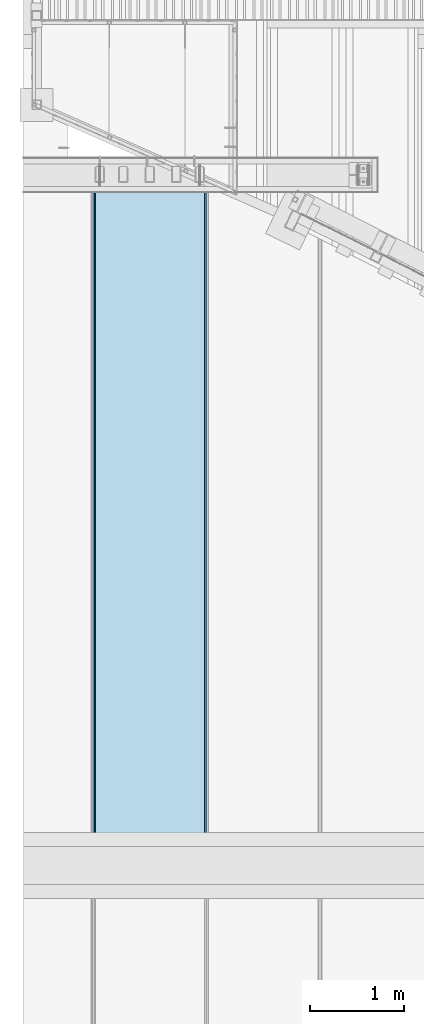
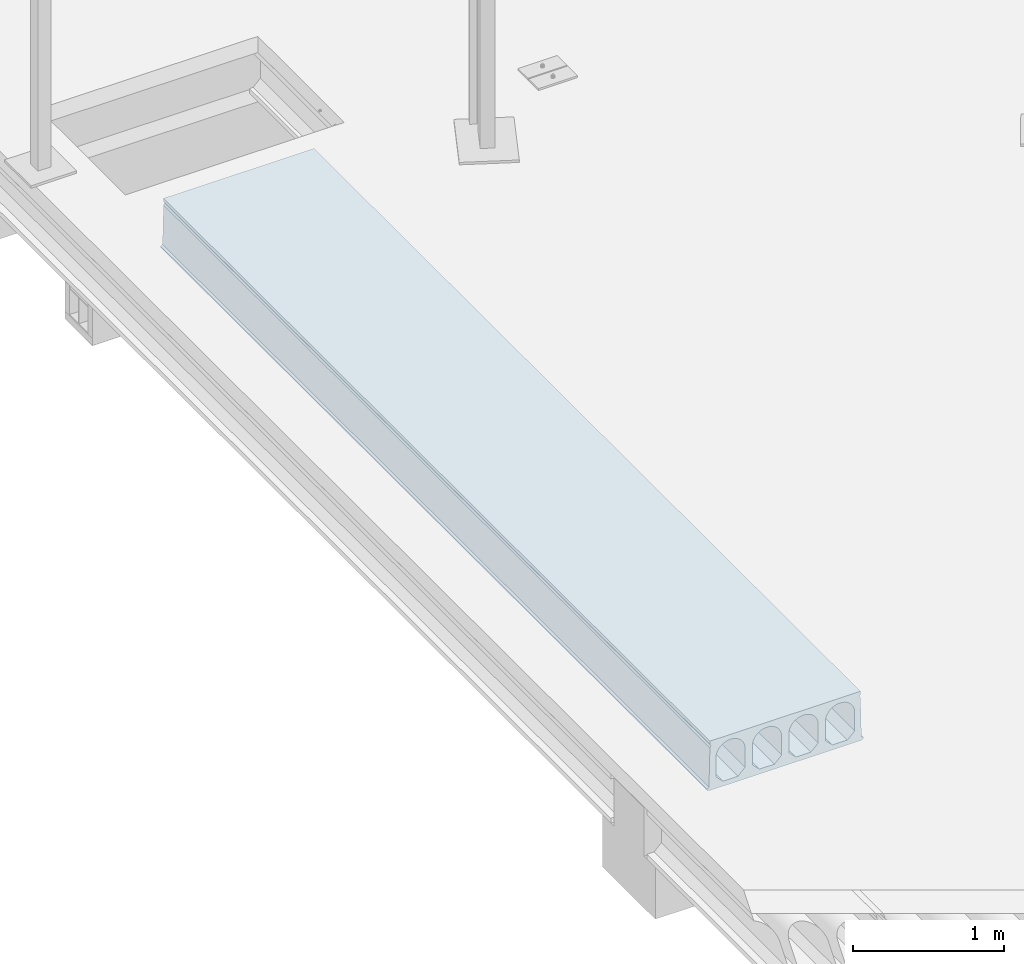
# One storey, part 53 of 98: 1 slab.
"""IFC2X3 building model written with IfcOpenShell, lengths in millimetres."""

from ifc_helpers import new_model, entity, si_unit, converted_unit, derived_unit, direction, frame, origin_with_axes, place, context, subcontext, project, spatial, faceted_brep, material, type_object, element, save


model = new_model("IFC2X3")

# Units and contexts
model_context = context("Model", 3, precision=0.01, world=frame((0.0, 4.29681676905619e-09, 0.0)), true_north=direction((4.01073788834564e-13, 1.0)))
plan_context = context("Plan", 3, precision=0.01, world=frame((0.0, 4.29681676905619e-09, 0.0)), true_north=direction((4.01073788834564e-13, 1.0)))
body_context = subcontext(model_context, "Body", "Model", "MODEL_VIEW")
ifc_project = project(units=[converted_unit("PLANEANGLEUNIT", "DEGREE", entity("IfcPositiveLengthMeasure", 0.0174532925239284), si_unit("PLANEANGLEUNIT", "RADIAN"), dimensions=[0, 0, 0, 0, 0, 0, 0]), si_unit("AREAUNIT", "SQUARE_METRE"), si_unit("LENGTHUNIT", "METRE", prefix="MILLI"), si_unit("MASSUNIT", "GRAM", prefix="KILO"), si_unit("POWERUNIT", "WATT"), si_unit("PRESSUREUNIT", "PASCAL"), si_unit("FORCEUNIT", "NEWTON", prefix="KILO"), si_unit("ELECTRICCURRENTUNIT", "AMPERE"), si_unit("THERMODYNAMICTEMPERATUREUNIT", "DEGREE_CELSIUS"), si_unit("TIMEUNIT", "SECOND"), si_unit("VOLUMEUNIT", "CUBIC_METRE"), derived_unit("LINEARVELOCITYUNIT", [(si_unit("LENGTHUNIT", "METRE"), 1), (si_unit("TIMEUNIT", "SECOND"), -1)]), derived_unit("VOLUMETRICFLOWRATEUNIT", [(si_unit("VOLUMEUNIT", "CUBIC_METRE"), 1), (si_unit("TIMEUNIT", "SECOND"), -1)]), derived_unit("THERMALTRANSMITTANCEUNIT", [(si_unit("POWERUNIT", "WATT"), 1), (si_unit("THERMODYNAMICTEMPERATUREUNIT", "KELVIN"), -1), (si_unit("AREAUNIT", "SQUARE_METRE"), -1)])], contexts=[model_context, plan_context])

# Site, building, storey
site_placement = place(None, frame((0.0, -4.29681676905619e-09, 0.0), z_axis=(0.0, 0.0, 1.0), x_axis=(1.0, 0.0, 0.0)))
site = spatial("IfcSite", under=ifc_project, at=site_placement, Name="Gardermoen", CompositionType="ELEMENT")
building_placement = place(site_placement, frame((0.0, 4.29681676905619e-09, 0.0), z_axis=(0.0, 0.0, 1.0), x_axis=(1.0, 0.0, 0.0)))
building = spatial("IfcBuilding", under=site, at=building_placement, Name="TS", CompositionType="ELEMENT")
storey_placement = place(building_placement, origin_with_axes())
storey = spatial("IfcBuildingStorey", under=building, at=storey_placement, Name="D", CompositionType="ELEMENT", Elevation=0.0)

# Slab
ifc_material = material(Name="CONCRETE/C45/55")
slab_type = type_object("IfcSlabType", Name="HD400", PredefinedType="NOTDEFINED")
slab_placement = place(storey_placement, frame((515199.999766, 405739.995625, 203600.0), z_axis=(0.0, 0.0, 1.0), x_axis=(0.0, 1.0, 0.0)))
element("IfcSlab", 1, at=slab_placement, inside=storey, type_object=slab_type, material=ifc_material, Name="HULLDEKKE", ObjectType="HD400", PredefinedType="FLOOR", context=body_context, shape_type="Brep", body=[
    faceted_brep([(0.0, 583.380004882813, -200.0), (0.0, 600.0, -190.0), (7259.97870812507, 600.0, -190.0), (7259.97905369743, 583.380004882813, -200.0), (0.0, -583.380004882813, -200.0), (7260.00331363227, -583.380004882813, -200.0), (0.0, -600.0, -190.0), (7260.00365920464, -600.0, -190.0), (0.0, -600.0, -180.0), (7260.00365920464, -600.0, -180.0), (0.0, -585.0, -170.0), (7260.00334731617, -585.0, -170.0), (0.0, -577.5, 145.0), (7260.00319137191, -577.5, 145.0), (0.0, -570.0, 160.0), (7260.00303542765, -570.0, 160.0), (0.0, -577.5, 175.0), (7260.00319137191, -577.5, 175.0), (0.0, -577.5, 200.0), (7260.00319137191, -577.5, 200.0), (0.0, 577.5, 200.0), (7259.97917595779, 577.5, 200.0), (0.0, 577.5, 175.0), (7259.97917595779, 577.5, 175.0), (0.0, 570.0, 160.0), (7259.97933190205, 570.0, 160.0), (0.0, 577.5, 145.0), (7259.97917595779, 577.5, 145.0), (0.0, 585.0, -170.0), (7259.97902001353, 585.0, -170.0), (0.0, 600.0, -180.0), (7259.97870812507, 600.0, -180.0), (0.0, -307.5, -105.0), (0.0, -362.5, -160.0), (7259.99872097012, -362.5, -160.0), (7259.99757737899, -307.5, -105.0), (0.0, -307.5, 47.5), (7259.99757737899, -307.5, 47.5), (0.0, -307.884244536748, 56.7901763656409), (7259.9975853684, -307.884244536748, 56.7901763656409), (0.0, -309.034353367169, 66.0168914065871), (7259.99760928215, -309.034353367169, 66.0168914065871), (0.0, -310.942470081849, 75.1171173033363), (7259.99764895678, -310.942470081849, 75.1171173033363), (0.0, -313.595560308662, 84.028690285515), (7259.99770412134, -313.595560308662, 84.028690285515), (0.0, -316.975500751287, 92.6907352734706), (7259.997774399, -316.975500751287, 92.6907352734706), (0.0, -321.059202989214, 101.044081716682), (7259.9978593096, -321.059202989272, 101.044081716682), (0.0, -325.818771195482, 109.031667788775), (7259.99795827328, -325.818771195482, 109.031667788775), (0.0, -331.221692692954, 116.598930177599), (7259.99807061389, -331.221692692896, 116.598930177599), (0.0, -337.231060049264, 123.694176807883), (7259.99819556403, -337.231060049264, 123.694176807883), (0.0, -343.805823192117, 130.268939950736), (7259.99833227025, -343.805823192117, 130.268939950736), (0.0, -350.901069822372, 136.278307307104), (7259.99847979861, -350.90106982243, 136.278307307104), (0.0, -358.468332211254, 141.681228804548), (7259.99863714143, -358.468332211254, 141.681228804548), (0.0, -366.455918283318, 146.440797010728), (7259.99880322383, -366.455918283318, 146.440797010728), (0.0, -374.809264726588, 150.524499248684), (7259.99897691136, -374.809264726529, 150.524499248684), (0.0, -383.471309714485, 153.904439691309), (7259.9991570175, -383.471309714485, 153.904439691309), (0.0, -392.382882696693, 156.55752991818), (7259.99934231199, -392.382882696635, 156.55752991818), (0.0, -401.483108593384, 158.465646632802), (7259.99953152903, -401.483108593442, 158.465646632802), (0.0, -410.709823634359, 159.615755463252), (7259.99972337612, -410.709823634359, 159.615755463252), (0.0, -420.0, 160.0), (7259.99991654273, -420.0, 160.0), (0.0, -429.290176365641, 159.615755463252), (7260.00010970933, -429.290176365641, 159.615755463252), (0.0, -438.516891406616, 158.465646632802), (7260.00030155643, -438.516891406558, 158.465646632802), (0.0, -447.617117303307, 156.55752991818), (7260.00049077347, -447.617117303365, 156.55752991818), (0.0, -456.528690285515, 153.904439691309), (7260.0006760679, -456.528690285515, 153.904439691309), (0.0, -465.190735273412, 150.524499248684), (7260.00085617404, -465.190735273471, 150.524499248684), (0.0, -473.544081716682, 146.440797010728), (7260.00102986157, -473.544081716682, 146.440797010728), (0.0, -481.531667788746, 141.681228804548), (7260.00119594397, -481.531667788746, 141.681228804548), (0.0, -489.098930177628, 136.278307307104), (7260.00135328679, -489.09893017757, 136.278307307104), (0.0, -496.194176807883, 130.268939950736), (7260.00150081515, -496.194176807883, 130.268939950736), (0.0, -502.768939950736, 123.694176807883), (7260.00163752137, -502.768939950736, 123.694176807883), (0.0, -508.778307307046, 116.598930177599), (7260.00176247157, -508.778307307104, 116.598930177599), (0.0, -514.181228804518, 109.031667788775), (7260.00187481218, -514.181228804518, 109.031667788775), (0.0, -518.940797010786, 101.044081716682), (7260.0019737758, -518.940797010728, 101.044081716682), (0.0, -523.024499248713, 92.6907352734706), (7260.00205868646, -523.024499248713, 92.6907352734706), (0.0, -526.404439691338, 84.028690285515), (7260.00212896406, -526.404439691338, 84.028690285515), (0.0, -529.057529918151, 75.1171173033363), (7260.00218412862, -529.057529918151, 75.1171173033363), (0.0, -530.965646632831, 66.0168914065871), (7260.00222380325, -530.965646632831, 66.0168914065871), (0.0, -532.115755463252, 56.7901763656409), (7260.002247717, -532.115755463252, 56.7901763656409), (0.0, -532.5, 47.5), (7260.00225570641, -532.5, 47.5), (0.0, -532.5, -105.0), (7260.00225570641, -532.5, -105.0), (0.0, -477.5, -160.0), (7260.00111211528, -477.5, -160.0), (0.0, 252.5, -105.0), (0.0, 197.5, -160.0), (7259.98707713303, 197.5, -160.0), (7259.98593354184, 252.5, -105.0), (0.0, 252.5, 47.5), (7259.98593354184, 252.5, 47.5), (0.0, 252.115755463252, 56.7901763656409), (7259.98594153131, 252.115755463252, 56.7901763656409), (0.0, 250.965646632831, 66.0168914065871), (7259.985965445, 250.965646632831, 66.0168914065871), (0.0, 249.057529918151, 75.1171173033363), (7259.98600511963, 249.057529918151, 75.1171173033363), (0.0, 246.404439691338, 84.028690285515), (7259.98606028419, 246.404439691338, 84.028690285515), (0.0, 243.024499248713, 92.6907352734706), (7259.98613056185, 243.024499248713, 92.6907352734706), (0.0, 238.940797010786, 101.044081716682), (7259.98621547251, 238.940797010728, 101.044081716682), (0.0, 234.181228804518, 109.031667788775), (7259.98631443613, 234.181228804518, 109.031667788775), (0.0, 228.778307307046, 116.598930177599), (7259.98642677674, 228.778307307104, 116.598930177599), (0.0, 222.768939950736, 123.694176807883), (7259.98655172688, 222.768939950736, 123.694176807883), (0.0, 216.194176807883, 130.268939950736), (7259.9866884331, 216.194176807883, 130.268939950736), (0.0, 209.098930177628, 136.278307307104), (7259.98683596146, 209.09893017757, 136.278307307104), (0.0, 201.531667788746, 141.681228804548), (7259.98699330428, 201.531667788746, 141.681228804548), (0.0, 193.544081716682, 146.440797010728), (7259.98715938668, 193.544081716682, 146.440797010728), (0.0, 185.190735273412, 150.524499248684), (7259.98733307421, 185.190735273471, 150.524499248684), (0.0, 176.528690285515, 153.904439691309), (7259.98751318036, 176.528690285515, 153.904439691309), (0.0, 167.617117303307, 156.55752991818), (7259.98769847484, 167.617117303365, 156.55752991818), (0.0, 158.516891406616, 158.465646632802), (7259.98788769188, 158.516891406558, 158.465646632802), (0.0, 149.290176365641, 159.615755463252), (7259.98807953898, 149.290176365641, 159.615755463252), (0.0, 140.0, 160.0), (7259.98827270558, 140.0, 160.0), (0.0, 130.709823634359, 159.615755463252), (7259.98846587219, 130.709823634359, 159.615755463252), (0.0, 121.483108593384, 158.465646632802), (7259.98865771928, 121.483108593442, 158.465646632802), (0.0, 112.382882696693, 156.55752991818), (7259.98884693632, 112.382882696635, 156.55752991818), (0.0, 103.471309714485, 153.904439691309), (7259.98903223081, 103.471309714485, 153.904439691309), (0.0, 94.8092647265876, 150.524499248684), (7259.98921233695, 94.8092647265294, 150.524499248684), (0.0, 86.4559182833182, 146.440797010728), (7259.98938602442, 86.4559182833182, 146.440797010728), (0.0, 78.4683322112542, 141.681228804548), (7259.98955210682, 78.4683322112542, 141.681228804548), (0.0, 70.9010698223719, 136.278307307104), (7259.98970944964, 70.9010698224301, 136.278307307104), (0.0, 63.8058231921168, 130.268939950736), (7259.98985697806, 63.8058231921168, 130.268939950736), (0.0, 57.2310600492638, 123.694176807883), (7259.98999368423, 57.2310600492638, 123.694176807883), (0.0, 51.2216926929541, 116.598930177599), (7259.99011863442, 51.2216926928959, 116.598930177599), (0.0, 45.8187711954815, 109.031667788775), (7259.99023097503, 45.8187711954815, 109.031667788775), (0.0, 41.0592029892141, 101.044081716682), (7259.99032993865, 41.0592029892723, 101.044081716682), (0.0, 36.9755007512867, 92.6907352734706), (7259.99041484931, 36.9755007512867, 92.6907352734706), (0.0, 33.5955603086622, 84.028690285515), (7259.99048512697, 33.5955603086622, 84.028690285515), (0.0, 30.942470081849, 75.1171173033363), (7259.99054029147, 30.942470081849, 75.1171173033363), (0.0, 29.0343533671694, 66.0168914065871), (7259.99057996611, 29.0343533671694, 66.0168914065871), (0.0, 27.8842445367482, 56.7901763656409), (7259.99060387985, 27.8842445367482, 56.7901763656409), (0.0, 27.5, 47.5), (7259.99061186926, 27.5, 47.5), (0.0, 27.5, -105.0), (7259.99061186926, 27.5, -105.0), (0.0, 82.5, -160.0), (7259.98946827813, 82.5, -160.0), (0.0, 532.5, -105.0), (0.0, 477.5, -160.0), (7259.98125521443, 477.5, -160.0), (7259.9801116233, 532.5, -105.0), (0.0, 532.5, 47.5), (7259.9801116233, 532.5, 47.5), (0.0, 532.115755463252, 56.7901763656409), (7259.98011961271, 532.115755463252, 56.7901763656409), (0.0, 530.965646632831, 66.0168914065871), (7259.98014352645, 530.965646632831, 66.0168914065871), (0.0, 529.057529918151, 75.1171173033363), (7259.98018320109, 529.057529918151, 75.1171173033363), (0.0, 526.404439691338, 84.028690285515), (7259.98023836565, 526.404439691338, 84.028690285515), (0.0, 523.024499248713, 92.6907352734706), (7259.98030864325, 523.024499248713, 92.6907352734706), (0.0, 518.940797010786, 101.044081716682), (7259.98039355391, 518.940797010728, 101.044081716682), (0.0, 514.181228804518, 109.031667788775), (7259.98049251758, 514.181228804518, 109.031667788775), (0.0, 508.778307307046, 116.598930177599), (7259.98060485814, 508.778307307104, 116.598930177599), (0.0, 502.768939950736, 123.694176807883), (7259.98072980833, 502.768939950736, 123.694176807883), (0.0, 496.194176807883, 130.268939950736), (7259.98086651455, 496.194176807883, 130.268939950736), (0.0, 489.098930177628, 136.278307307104), (7259.98101404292, 489.09893017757, 136.278307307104), (0.0, 481.531667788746, 141.681228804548), (7259.98117138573, 481.531667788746, 141.681228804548), (0.0, 473.544081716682, 146.440797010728), (7259.98133746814, 473.544081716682, 146.440797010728), (0.0, 465.190735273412, 150.524499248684), (7259.98151115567, 465.190735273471, 150.524499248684), (0.0, 456.528690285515, 153.904439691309), (7259.98169126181, 456.528690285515, 153.904439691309), (0.0, 447.617117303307, 156.55752991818), (7259.98187655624, 447.617117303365, 156.55752991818), (0.0, 438.516891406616, 158.465646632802), (7259.98206577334, 438.516891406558, 158.465646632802), (0.0, 429.290176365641, 159.615755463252), (7259.98225762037, 429.290176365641, 159.615755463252), (0.0, 420.0, 160.0), (7259.98245078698, 420.0, 160.0), (0.0, 410.709823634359, 159.615755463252), (7259.98264395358, 410.709823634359, 159.615755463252), (0.0, 401.483108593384, 158.465646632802), (7259.98283580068, 401.483108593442, 158.465646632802), (0.0, 392.382882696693, 156.55752991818), (7259.98302501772, 392.382882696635, 156.55752991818), (0.0, 383.471309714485, 153.904439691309), (7259.9832103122, 383.471309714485, 153.904439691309), (0.0, 374.809264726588, 150.524499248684), (7259.98339041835, 374.809264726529, 150.524499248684), (0.0, 366.455918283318, 146.440797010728), (7259.98356410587, 366.455918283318, 146.440797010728), (0.0, 358.468332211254, 141.681228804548), (7259.98373018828, 358.468332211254, 141.681228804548), (0.0, 350.901069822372, 136.278307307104), (7259.9838875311, 350.90106982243, 136.278307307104), (0.0, 343.805823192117, 130.268939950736), (7259.98403505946, 343.805823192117, 130.268939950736), (0.0, 337.231060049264, 123.694176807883), (7259.98417176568, 337.231060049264, 123.694176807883), (0.0, 331.221692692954, 116.598930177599), (7259.98429671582, 331.221692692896, 116.598930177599), (0.0, 325.818771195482, 109.031667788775), (7259.98440905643, 325.818771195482, 109.031667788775), (0.0, 321.059202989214, 101.044081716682), (7259.9845080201, 321.059202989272, 101.044081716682), (0.0, 316.975500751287, 92.6907352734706), (7259.9845929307, 316.975500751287, 92.6907352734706), (0.0, 313.595560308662, 84.028690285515), (7259.98466320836, 313.595560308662, 84.028690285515), (0.0, 310.942470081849, 75.1171173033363), (7259.98471837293, 310.942470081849, 75.1171173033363), (0.0, 309.034353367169, 66.0168914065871), (7259.98475804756, 309.034353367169, 66.0168914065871), (0.0, 307.884244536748, 56.7901763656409), (7259.98478196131, 307.884244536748, 56.7901763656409), (0.0, 307.5, 47.5), (7259.98478995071, 307.5, 47.5), (0.0, 307.5, -105.0), (7259.98478995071, 307.5, -105.0), (0.0, 362.5, -160.0), (7259.98364635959, 362.5, -160.0), (0.0, -27.5, -105.0), (0.0, -27.5, 47.5), (0.0, -27.8842445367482, 56.7901763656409), (0.0, -29.0343533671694, 66.0168914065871), (0.0, -30.942470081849, 75.1171173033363), (0.0, -33.5955603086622, 84.028690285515), (0.0, -36.9755007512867, 92.6907352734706), (0.0, -41.0592029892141, 101.044081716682), (0.0, -45.8187711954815, 109.031667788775), (0.0, -51.2216926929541, 116.598930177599), (0.0, -57.2310600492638, 123.694176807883), (0.0, -63.8058231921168, 130.268939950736), (0.0, -70.9010698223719, 136.278307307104), (0.0, -78.4683322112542, 141.681228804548), (0.0, -86.4559182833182, 146.440797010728), (0.0, -94.8092647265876, 150.524499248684), (0.0, -103.471309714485, 153.904439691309), (0.0, -112.382882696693, 156.55752991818), (0.0, -121.483108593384, 158.465646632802), (0.0, -130.709823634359, 159.615755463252), (0.0, -140.0, 160.0), (0.0, -149.290176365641, 159.615755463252), (0.0, -158.516891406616, 158.465646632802), (0.0, -167.617117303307, 156.55752991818), (0.0, -176.528690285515, 153.904439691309), (0.0, -185.190735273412, 150.524499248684), (0.0, -193.544081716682, 146.440797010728), (0.0, -201.531667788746, 141.681228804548), (0.0, -209.098930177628, 136.278307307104), (0.0, -216.194176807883, 130.268939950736), (0.0, -222.768939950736, 123.694176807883), (0.0, -228.778307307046, 116.598930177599), (0.0, -234.181228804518, 109.031667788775), (0.0, -238.940797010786, 101.044081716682), (0.0, -243.024499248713, 92.6907352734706), (0.0, -246.404439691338, 84.028690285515), (0.0, -249.057529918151, 75.1171173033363), (0.0, -250.965646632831, 66.0168914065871), (0.0, -252.115755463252, 56.7901763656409), (0.0, -252.5, 47.5), (0.0, -252.5, -105.0), (0.0, -197.5, -160.0), (0.0, -82.5, -160.0), (7259.99447963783, -158.516891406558, 158.465646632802), (7259.99466885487, -167.617117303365, 156.55752991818), (7259.99485414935, -176.528690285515, 153.904439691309), (7259.99503425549, -185.190735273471, 150.524499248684), (7259.99520794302, -193.544081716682, 146.440797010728), (7259.99537402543, -201.531667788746, 141.681228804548), (7259.99553136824, -209.09893017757, 136.278307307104), (7259.99567889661, -216.194176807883, 130.268939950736), (7259.99581560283, -222.768939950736, 123.694176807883), (7259.99594055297, -228.778307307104, 116.598930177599), (7259.99605289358, -234.181228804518, 109.031667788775), (7259.99615185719, -238.940797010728, 101.044081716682), (7259.99623676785, -243.024499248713, 92.6907352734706), (7259.99630704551, -246.404439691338, 84.028690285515), (7259.99636221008, -249.057529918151, 75.1171173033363), (7259.99640188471, -250.965646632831, 66.0168914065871), (7259.9964257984, -252.115755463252, 56.7901763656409), (7259.99643378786, -252.5, 47.5), (7259.99643378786, -252.5, -105.0), (7259.99529019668, -197.5, -160.0), (7259.99289905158, -82.5, -160.0), (7259.99175546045, -27.5, -105.0), (7259.99175546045, -27.5, 47.5), (7259.99176344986, -27.8842445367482, 56.7901763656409), (7259.99178736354, -29.0343533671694, 66.0168914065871), (7259.99182703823, -30.942470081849, 75.1171173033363), (7259.9918822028, -33.5955603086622, 84.028690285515), (7259.9919524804, -36.9755007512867, 92.6907352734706), (7259.99203739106, -41.0592029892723, 101.044081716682), (7259.99213635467, -45.8187711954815, 109.031667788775), (7259.99224869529, -51.2216926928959, 116.598930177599), (7259.99237364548, -57.2310600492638, 123.694176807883), (7259.99251035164, -63.8058231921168, 130.268939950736), (7259.99265788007, -70.9010698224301, 136.278307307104), (7259.99281522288, -78.4683322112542, 141.681228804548), (7259.99298130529, -86.4559182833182, 146.440797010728), (7259.99315499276, -94.8092647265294, 150.524499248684), (7259.9933350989, -103.471309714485, 153.904439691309), (7259.99352039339, -112.382882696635, 156.55752991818), (7259.99370961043, -121.483108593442, 158.465646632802), (7259.99390145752, -130.709823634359, 159.615755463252), (7259.99409462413, -140.0, 160.0), (7259.99428779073, -149.290176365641, 159.615755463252)], [[[0, 1, 2, 3]], [[4, 0, 3, 5]], [[6, 4, 5, 7]], [[8, 6, 7, 9]], [[10, 8, 9, 11]], [[12, 10, 11, 13]], [[14, 12, 13, 15]], [[16, 14, 15, 17]], [[18, 16, 17, 19]], [[20, 18, 19, 21]], [[22, 20, 21, 23]], [[24, 22, 23, 25]], [[26, 24, 25, 27]], [[28, 26, 27, 29]], [[30, 28, 29, 31]], [[1, 30, 31, 2]], [[32, 33, 34, 35]], [[36, 32, 35, 37]], [[38, 36, 37, 39]], [[40, 38, 39, 41]], [[42, 40, 41, 43]], [[44, 42, 43, 45]], [[46, 44, 45, 47]], [[48, 46, 47, 49]], [[50, 48, 49, 51]], [[52, 50, 51, 53]], [[54, 52, 53, 55]], [[56, 54, 55, 57]], [[58, 56, 57, 59]], [[60, 58, 59, 61]], [[62, 60, 61, 63]], [[64, 62, 63, 65]], [[66, 64, 65, 67]], [[68, 66, 67, 69]], [[70, 68, 69, 71]], [[72, 70, 71, 73]], [[74, 72, 73, 75]], [[76, 74, 75, 77]], [[78, 76, 77, 79]], [[80, 78, 79, 81]], [[82, 80, 81, 83]], [[84, 82, 83, 85]], [[86, 84, 85, 87]], [[88, 86, 87, 89]], [[90, 88, 89, 91]], [[92, 90, 91, 93]], [[94, 92, 93, 95]], [[96, 94, 95, 97]], [[98, 96, 97, 99]], [[100, 98, 99, 101]], [[102, 100, 101, 103]], [[104, 102, 103, 105]], [[106, 104, 105, 107]], [[108, 106, 107, 109]], [[110, 108, 109, 111]], [[112, 110, 111, 113]], [[114, 112, 113, 115]], [[116, 114, 115, 117]], [[33, 116, 117, 34]], [[118, 119, 120, 121]], [[122, 118, 121, 123]], [[124, 122, 123, 125]], [[126, 124, 125, 127]], [[128, 126, 127, 129]], [[130, 128, 129, 131]], [[132, 130, 131, 133]], [[134, 132, 133, 135]], [[136, 134, 135, 137]], [[138, 136, 137, 139]], [[140, 138, 139, 141]], [[142, 140, 141, 143]], [[144, 142, 143, 145]], [[146, 144, 145, 147]], [[148, 146, 147, 149]], [[150, 148, 149, 151]], [[152, 150, 151, 153]], [[154, 152, 153, 155]], [[156, 154, 155, 157]], [[158, 156, 157, 159]], [[160, 158, 159, 161]], [[162, 160, 161, 163]], [[164, 162, 163, 165]], [[166, 164, 165, 167]], [[168, 166, 167, 169]], [[170, 168, 169, 171]], [[172, 170, 171, 173]], [[174, 172, 173, 175]], [[176, 174, 175, 177]], [[178, 176, 177, 179]], [[180, 178, 179, 181]], [[182, 180, 181, 183]], [[184, 182, 183, 185]], [[186, 184, 185, 187]], [[188, 186, 187, 189]], [[190, 188, 189, 191]], [[192, 190, 191, 193]], [[194, 192, 193, 195]], [[196, 194, 195, 197]], [[198, 196, 197, 199]], [[200, 198, 199, 201]], [[202, 200, 201, 203]], [[119, 202, 203, 120]], [[204, 205, 206, 207]], [[208, 204, 207, 209]], [[210, 208, 209, 211]], [[212, 210, 211, 213]], [[214, 212, 213, 215]], [[216, 214, 215, 217]], [[218, 216, 217, 219]], [[220, 218, 219, 221]], [[222, 220, 221, 223]], [[224, 222, 223, 225]], [[226, 224, 225, 227]], [[228, 226, 227, 229]], [[230, 228, 229, 231]], [[232, 230, 231, 233]], [[234, 232, 233, 235]], [[236, 234, 235, 237]], [[238, 236, 237, 239]], [[240, 238, 239, 241]], [[242, 240, 241, 243]], [[244, 242, 243, 245]], [[246, 244, 245, 247]], [[248, 246, 247, 249]], [[250, 248, 249, 251]], [[252, 250, 251, 253]], [[254, 252, 253, 255]], [[256, 254, 255, 257]], [[258, 256, 257, 259]], [[260, 258, 259, 261]], [[262, 260, 261, 263]], [[264, 262, 263, 265]], [[266, 264, 265, 267]], [[268, 266, 267, 269]], [[270, 268, 269, 271]], [[272, 270, 271, 273]], [[274, 272, 273, 275]], [[276, 274, 275, 277]], [[278, 276, 277, 279]], [[280, 278, 279, 281]], [[282, 280, 281, 283]], [[284, 282, 283, 285]], [[286, 284, 285, 287]], [[288, 286, 287, 289]], [[205, 288, 289, 206]], [[0, 4, 6, 8, 10, 12, 14, 16, 18, 20, 22, 24, 26, 28, 30, 1], [204, 208, 210, 212, 214, 216, 218, 220, 222, 224, 226, 228, 230, 232, 234, 236, 238, 240, 242, 244, 246, 248, 250, 252, 254, 256, 258, 260, 262, 264, 266, 268, 270, 272, 274, 276, 278, 280, 282, 284, 286, 288, 205], [118, 122, 124, 126, 128, 130, 132, 134, 136, 138, 140, 142, 144, 146, 148, 150, 152, 154, 156, 158, 160, 162, 164, 166, 168, 170, 172, 174, 176, 178, 180, 182, 184, 186, 188, 190, 192, 194, 196, 198, 200, 202, 119], [290, 291, 292, 293, 294, 295, 296, 297, 298, 299, 300, 301, 302, 303, 304, 305, 306, 307, 308, 309, 310, 311, 312, 313, 314, 315, 316, 317, 318, 319, 320, 321, 322, 323, 324, 325, 326, 327, 328, 329, 330, 331, 332], [32, 36, 38, 40, 42, 44, 46, 48, 50, 52, 54, 56, 58, 60, 62, 64, 66, 68, 70, 72, 74, 76, 78, 80, 82, 84, 86, 88, 90, 92, 94, 96, 98, 100, 102, 104, 106, 108, 110, 112, 114, 116, 33]], [[313, 312, 333, 334]], [[314, 313, 334, 335]], [[315, 314, 335, 336]], [[316, 315, 336, 337]], [[317, 316, 337, 338]], [[318, 317, 338, 339]], [[319, 318, 339, 340]], [[320, 319, 340, 341]], [[321, 320, 341, 342]], [[322, 321, 342, 343]], [[323, 322, 343, 344]], [[324, 323, 344, 345]], [[325, 324, 345, 346]], [[326, 325, 346, 347]], [[327, 326, 347, 348]], [[328, 327, 348, 349]], [[329, 328, 349, 350]], [[330, 329, 350, 351]], [[331, 330, 351, 352]], [[332, 331, 352, 353]], [[290, 332, 353, 354]], [[291, 290, 354, 355]], [[292, 291, 355, 356]], [[293, 292, 356, 357]], [[294, 293, 357, 358]], [[295, 294, 358, 359]], [[296, 295, 359, 360]], [[297, 296, 360, 361]], [[298, 297, 361, 362]], [[299, 298, 362, 363]], [[300, 299, 363, 364]], [[301, 300, 364, 365]], [[302, 301, 365, 366]], [[303, 302, 366, 367]], [[304, 303, 367, 368]], [[305, 304, 368, 369]], [[306, 305, 369, 370]], [[307, 306, 370, 371]], [[308, 307, 371, 372]], [[309, 308, 372, 373]], [[310, 309, 373, 374]], [[311, 310, 374, 375]], [[312, 311, 375, 333]], [[19, 17, 15, 13, 11, 9, 7, 5, 3, 2, 31, 29, 27, 25, 23, 21], [374, 373, 372, 371, 370, 369, 368, 367, 366, 365, 364, 363, 362, 361, 360, 359, 358, 357, 356, 355, 354, 353, 352, 351, 350, 349, 348, 347, 346, 345, 344, 343, 342, 341, 340, 339, 338, 337, 336, 335, 334, 333, 375], [75, 73, 71, 69, 67, 65, 63, 61, 59, 57, 55, 53, 51, 49, 47, 45, 43, 41, 39, 37, 35, 34, 117, 115, 113, 111, 109, 107, 105, 103, 101, 99, 97, 95, 93, 91, 89, 87, 85, 83, 81, 79, 77], [161, 159, 157, 155, 153, 151, 149, 147, 145, 143, 141, 139, 137, 135, 133, 131, 129, 127, 125, 123, 121, 120, 203, 201, 199, 197, 195, 193, 191, 189, 187, 185, 183, 181, 179, 177, 175, 173, 171, 169, 167, 165, 163], [247, 245, 243, 241, 239, 237, 235, 233, 231, 229, 227, 225, 223, 221, 219, 217, 215, 213, 211, 209, 207, 206, 289, 287, 285, 283, 281, 279, 277, 275, 273, 271, 269, 267, 265, 263, 261, 259, 257, 255, 253, 251, 249]]]),
])

save(model, "model.ifc")
